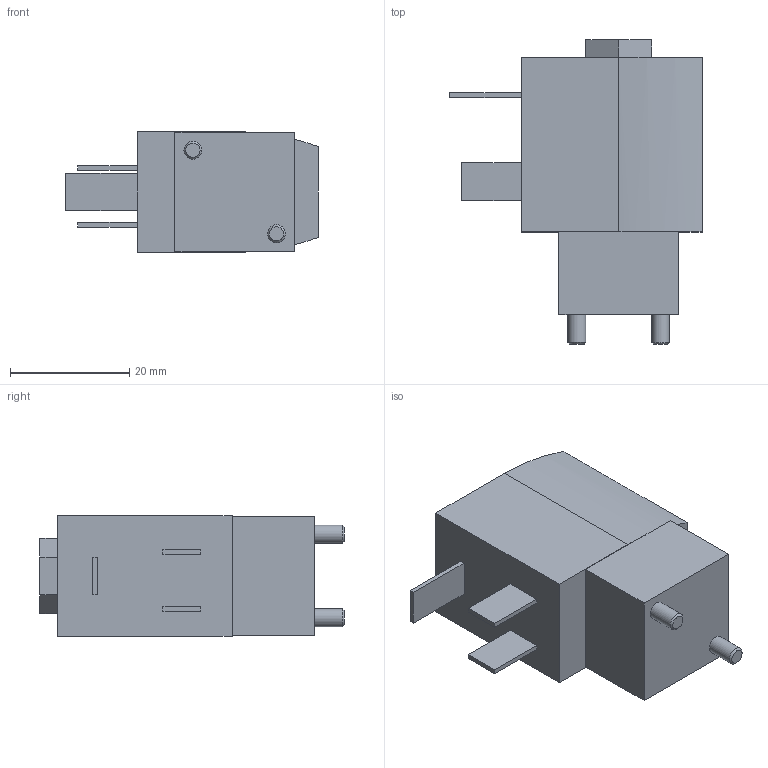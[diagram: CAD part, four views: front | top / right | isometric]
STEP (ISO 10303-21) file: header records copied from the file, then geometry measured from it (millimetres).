
FILE_DESCRIPTION( ( 'STEP AP214' ), '1' );
FILE_NAME( 'p:/temp/worker_28/temp/app_51_02018110118381335334462192d056f_000000_00_00_000000/format_0/6011-163541-2_2-Way-mini-solenoid-valve.stp', '2018-11-01T17:38:13', ( '' ), ( '' ), ' ', 'PARTsolutions', ' ' );
FILE_SCHEMA( ( 'AUTOMOTIVE_DESIGN { 1 0 10303 214 1 1 1 1 }' ) );
Length unit declared in the file: millimetre
Products named in the file (1): _6011-163541-2/2-Way-mini-solenoid-valve
Bounding box: 42.3 x 51 x 20.2 mm (x, y, z)
Volume: 23257.1 mm3; surface area: 5773.6 mm2
Topology: 1 solids, 1 shells, 44 faces, 102 edges, 66 vertices
Faces by surface type: plane 38, cylinder 4, cone 2
Full cylindrical faces by diameter (mm): 3 x2
Entity records: 1580 total; most frequent: CARTESIAN_POINT 209, DIRECTION 202, ORIENTED_EDGE 196, EDGE_CURVE 98, LINE 84, VECTOR 84, VERTEX_POINT 66, AXIS2_PLACEMENT_3D 59
